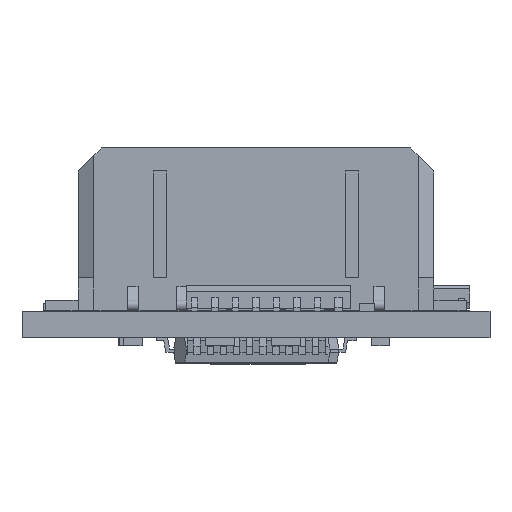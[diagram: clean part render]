
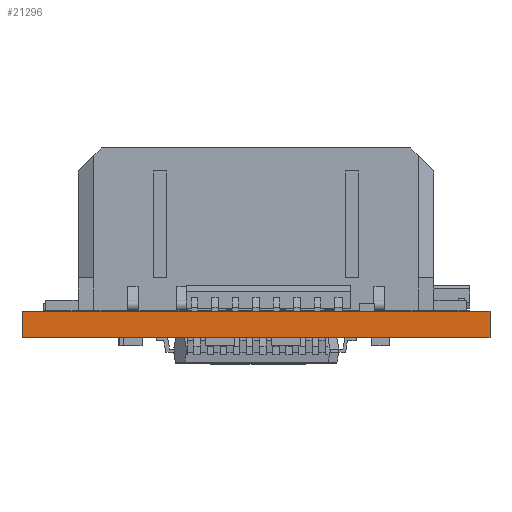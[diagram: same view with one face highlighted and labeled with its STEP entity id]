
A CAD part, front view. The second image highlights one B-rep face of the part: STEP entity #21296.
In plain terms, the highlighted planar face has unit normal (0, -1, 0).
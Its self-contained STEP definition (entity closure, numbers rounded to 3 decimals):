
#287 = EDGE_CURVE ( 'NONE', #52290, #43259, #10901, .T. ) ;
#644 = DIRECTION ( 'NONE',  ( 0., 0., 1. ) ) ;
#2937 = DIRECTION ( 'NONE',  ( 1., 0., 0. ) ) ;
#3619 = FACE_OUTER_BOUND ( 'NONE', #31514, .T. ) ;
#4312 = VECTOR ( 'NONE', #47490, 1000. ) ;
#6048 = CARTESIAN_POINT ( 'NONE',  ( -9.267, -9.237, 0. ) ) ;
#10201 = LINE ( 'NONE', #31716, #43105 ) ;
#10901 = LINE ( 'NONE', #26100, #42520 ) ;
#11028 = CARTESIAN_POINT ( 'NONE',  ( 19.233, -9.237, 0. ) ) ;
#13726 = CARTESIAN_POINT ( 'NONE',  ( 19.233, -9.237, 1.6 ) ) ;
#15014 = VERTEX_POINT ( 'NONE', #13726 ) ;
#15609 = EDGE_CURVE ( 'NONE', #15014, #29513, #35905, .T. ) ;
#16390 = ORIENTED_EDGE ( 'NONE', *, *, #41718, .T. ) ;
#21296 = ADVANCED_FACE ( 'NONE', ( #3619 ), #33439, .F. ) ;
#22101 = DIRECTION ( 'NONE',  ( 0., 0., -1. ) ) ;
#25335 = DIRECTION ( 'NONE',  ( 0., 1., 0. ) ) ;
#26100 = CARTESIAN_POINT ( 'NONE',  ( -9.267, -9.237, 1.6 ) ) ;
#29513 = VERTEX_POINT ( 'NONE', #11028 ) ;
#31514 = EDGE_LOOP ( 'NONE', ( #16390, #35161, #47010, #44835 ) ) ;
#31716 = CARTESIAN_POINT ( 'NONE',  ( -9.267, -9.237, 1.6 ) ) ;
#33439 = PLANE ( 'NONE',  #44228 ) ;
#33728 = EDGE_CURVE ( 'NONE', #52290, #15014, #10201, .T. ) ;
#35087 = CARTESIAN_POINT ( 'NONE',  ( 19.233, -9.237, 1.6 ) ) ;
#35161 = ORIENTED_EDGE ( 'NONE', *, *, #15609, .F. ) ;
#35905 = LINE ( 'NONE', #35087, #4312 ) ;
#36904 = CARTESIAN_POINT ( 'NONE',  ( -9.267, -9.237, 0. ) ) ;
#38367 = VECTOR ( 'NONE', #51324, 1000. ) ;
#41718 = EDGE_CURVE ( 'NONE', #43259, #29513, #50643, .T. ) ;
#42520 = VECTOR ( 'NONE', #22101, 1000. ) ;
#42659 = CARTESIAN_POINT ( 'NONE',  ( -9.267, -9.237, 1.6 ) ) ;
#43105 = VECTOR ( 'NONE', #2937, 1000. ) ;
#43259 = VERTEX_POINT ( 'NONE', #36904 ) ;
#44228 = AXIS2_PLACEMENT_3D ( 'NONE', #50007, #25335, #644 ) ;
#44835 = ORIENTED_EDGE ( 'NONE', *, *, #287, .T. ) ;
#47010 = ORIENTED_EDGE ( 'NONE', *, *, #33728, .F. ) ;
#47490 = DIRECTION ( 'NONE',  ( 0., 0., -1. ) ) ;
#50007 = CARTESIAN_POINT ( 'NONE',  ( -9.267, -9.237, 1.6 ) ) ;
#50643 = LINE ( 'NONE', #6048, #38367 ) ;
#51324 = DIRECTION ( 'NONE',  ( 1., 0., 0. ) ) ;
#52290 = VERTEX_POINT ( 'NONE', #42659 ) ;
